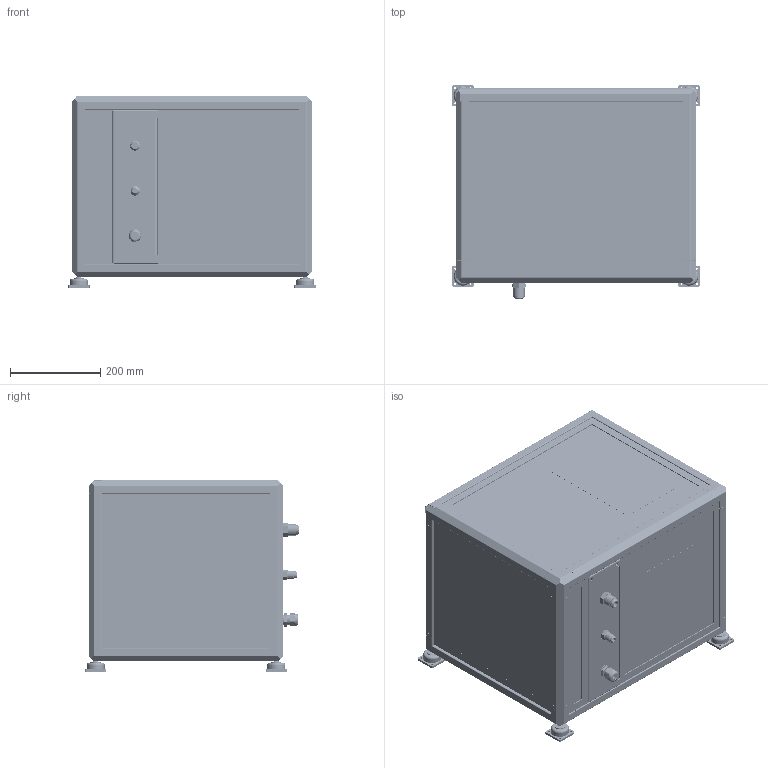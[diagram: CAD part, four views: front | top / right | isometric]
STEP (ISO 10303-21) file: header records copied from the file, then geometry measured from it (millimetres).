
FILE_DESCRIPTION(/* description */ (''),/* implementation_level */ '2;1');
FILE_NAME(/* name */ '\\NASTMDMARINE\Disegni\Disegni\01_Prodotti\AHU1500T\04_CAD per esportazione\AHU1500T.stp',/* time_stamp */ '2021-11-15T13:46:49+01:00',/* author */ ('CAD 1'),/* organization */ (''),/* preprocessor_version */ 'ST-DEVELOPER v18.1',/* originating_system */ 'Autodesk Inventor 2021',/* authorisation */ '');
FILE_SCHEMA (('AUTOMOTIVE_DESIGN { 1 0 10303 214 3 1 1 }'));
Products named in the file (116): AHU1500T; AHU2000T_1500; Batteria_1500; KK03_000_1500; KK03_Pacco_1500; KK03.B_000_1500; KK03.A_000_1500; KK03.C_000_1500; KK03.C_000_1500_1; imbocco_15_1500; imbocco_15_1500_1; KK03.L_000_1500; KK03.I_000_1500; KK03.I_000_1500_1; 1020_05_1500; imbocco_15_1500_2; imbocco_15_1500_3; imbocco_15_1500_4; imbocco_15_1500_5; imbocco_15_1500_6; imbocco_15_1500_7; imbocco_15_1500_8; imbocco_15_1500_9; imbocco_15_1500_10; imbocco_15_1500_11; imbocco_15_1500_12; imbocco_15_1500_13; imbocco_15_1500_14; imbocco_15_1500_15; imbocco_15_1500_16; imbocco_15_1500_17; imbocco_15_1500_18; imbocco_15_1500_19; imbocco_15_1500_20; imbocco_15_1500_21; imbocco_15_1500_22; imbocco_15_1500_23; imbocco_15_1500_24; imbocco_15_1500_25; imbocco_15_1500_26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
Assembly tree (160 placements, depth 6):
  AHU1500T
    AHU2000T_1500
      Batteria_1500
        KK03_000_1500
          KK03_Pacco_1500
          KK03.B_000_1500
          KK03.A_000_1500
          KK03.C_000_1500
          KK03.C_000_1500_1
          imbocco_15_1500
          imbocco_15_1500_1
          KK03.L_000_1500
          KK03.I_000_1500
            KK03.I_000_1500_1
            1020_05_1500
          imbocco_15_1500_2
          imbocco_15_1500_3
          imbocco_15_1500_4
          imbocco_15_1500_5
          imbocco_15_1500_6
          imbocco_15_1500_7
          imbocco_15_1500_8
          imbocco_15_1500_9
          imbocco_15_1500_10
          imbocco_15_1500_11
          imbocco_15_1500_12
          imbocco_15_1500_13
          imbocco_15_1500_14
          imbocco_15_1500_15
          imbocco_15_1500_16
          imbocco_15_1500_17
          imbocco_15_1500_18
          imbocco_15_1500_19
          imbocco_15_1500_20
          imbocco_15_1500_21
          imbocco_15_1500_22
          imbocco_15_1500_23
          imbocco_15_1500_24
          imbocco_15_1500_25
          imbocco_15_1500_26
          imbocco_15_1500_27
          imbocco_15_1500_28
          imbocco_15_1500_29
          imbocco_15_1500_30
          imbocco_15_1500_31
          imbocco_15_1500_32
          imbocco_15_1500_33
          imbocco_15_1500_34
          imbocco_15_1500_35
          imbocco_15_1500_36
          imbocco_15_1500_37
          imbocco_15_1500_38
          imbocco_15_1500_39
          imbocco_15_1500_40
          imbocco_15_1500_41
          imbocco_15_1500_42
          imbocco_15_1500_43
          imbocco_15_1500_44
          imbocco_15_1500_45
          imbocco_15_1500_46
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Bounding box: 549 x 475 x 425 mm (x, y, z)
Volume: 34416153.6 mm3; surface area: 6344165.7 mm2
Topology: 150 solids, 179 shells, 4346 faces, 11131 edges, 7040 vertices
Faces by surface type: cylinder 1766, plane 1718, torus 514, sphere 216, bspline 99, cone 33
Full cylindrical faces by diameter (mm): 3.3 x1, 3.5 x2, 4 x11, 4.13 x1, 4.2 x17, 4.5 x37, 4.7 x1, 5 x4, 5.459 x4, 5.5 x6, 6 x3, 6.6 x6, 6.64 x36, 7 x8, 7.2 x2, 7.4 x1, 7.74 x18, 7.94 x36, 8 x4, 8.22 x22, 8.5 x6, 9 x12, 9.32 x11, 9.52 x22, 10 x52, 12 x6, 12.7 x1, 13 x1, 13.5 x1, 14 x124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
Entity records: 76683 total; most frequent: CARTESIAN_POINT 22731, DIRECTION 10688, ORIENTED_EDGE 9998, EDGE_CURVE 4999, AXIS2_PLACEMENT_3D 4054, VERTEX_POINT 3440, LINE 2580, VECTOR 2580
